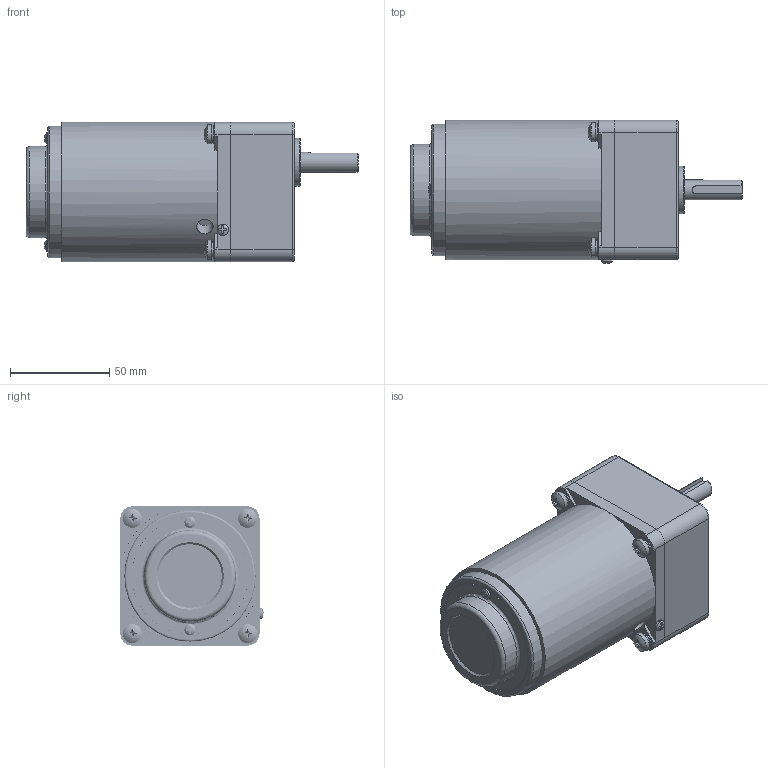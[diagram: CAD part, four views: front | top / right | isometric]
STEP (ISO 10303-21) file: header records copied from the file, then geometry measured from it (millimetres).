
FILE_DESCRIPTION(/* description */ (''),/* implementation_level */ '2;1');
FILE_NAME(/* name */ '70矮箱L-25调速.stp',/* time_stamp */ '2022-10-31T09:39:57+08:00',/* author */ (''),/* organization */ (''),/* preprocessor_version */ 'ST-DEVELOPER v16.7',/* originating_system */ 'SIEMENS PLM Software NX 1899',/* authorisation */ '');
FILE_SCHEMA (('AP203_CONFIGURATION_CONTROLLED_3D_DESIGN_OF_MECHANICAL_PARTS_AND_ASSEMBLIES_MIM_LF { 1 0 10303 403 2 1 2}'));
Products named in the file (1): yf186188FEB6lcbg
Bounding box: 167 x 72.04 x 70 mm (x, y, z)
Volume: 530857.5 mm3; surface area: 61493.8 mm2
Topology: 14 solids, 16 shells, 339 faces, 836 edges, 548 vertices
Faces by surface type: plane 153, bspline 88, cylinder 70, torus 13, cone 8, sphere 7
Full cylindrical faces by diameter (mm): 2.7 x1, 4.826 x4, 5 x4, 5.3 x4, 5.6 x3, 6 x5, 8.3 x1, 9 x4, 9.5 x4, 10 x1, 24 x1, 37 x1, 46 x1, 58.6 x1, 60 x1, 63 x1, 66 x1, 66.6 x2, 70 x1
Entity records: 55481 total; most frequent: CARTESIAN_POINT 48115, ORIENTED_EDGE 1496, DIRECTION 1219, EDGE_CURVE 748, VERTEX_POINT 524, AXIS2_PLACEMENT_3D 496, EDGE_LOOP 445, ADVANCED_FACE 339
